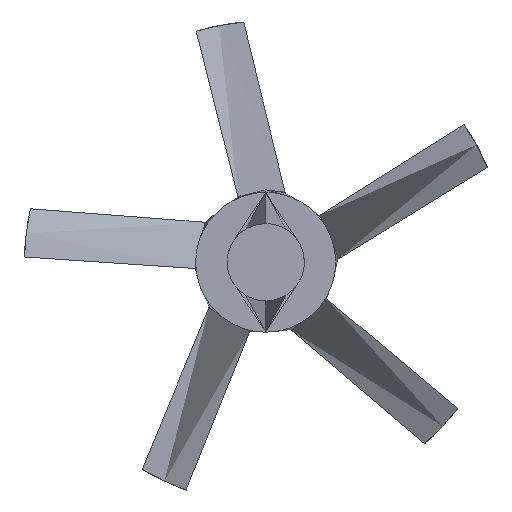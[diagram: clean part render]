
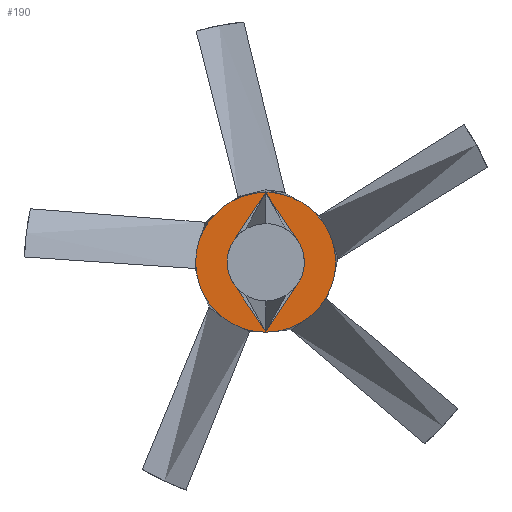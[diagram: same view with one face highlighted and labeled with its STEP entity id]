
A CAD part, left-side view. The second image highlights one B-rep face of the part: STEP entity #190.
In plain terms, the highlighted planar face has unit normal (-1, 0, 0).
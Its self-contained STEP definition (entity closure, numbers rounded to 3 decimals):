
#190=ADVANCED_FACE($,(#231,#206),#583,.T.);
#206=FACE_BOUND($,#270,.T.);
#231=FACE_OUTER_BOUND($,#269,.T.);
#269=EDGE_LOOP($,(#383,#384));
#270=EDGE_LOOP($,(#385,#386,#387));
#383=ORIENTED_EDGE($,*,*,#453,.T.);
#384=ORIENTED_EDGE($,*,*,#454,.T.);
#385=ORIENTED_EDGE($,*,*,#519,.F.);
#386=ORIENTED_EDGE($,*,*,#501,.F.);
#387=ORIENTED_EDGE($,*,*,#500,.F.);
#453=EDGE_CURVE($,#534,#529,#665,.T.);
#454=EDGE_CURVE($,#529,#534,#666,.T.);
#500=EDGE_CURVE($,#566,#565,#684,.T.);
#501=EDGE_CURVE($,#565,#576,#685,.T.);
#519=EDGE_CURVE($,#576,#566,#696,.T.);
#529=VERTEX_POINT($,#11056);
#534=VERTEX_POINT($,#11061);
#565=VERTEX_POINT($,#11092);
#566=VERTEX_POINT($,#11093);
#576=VERTEX_POINT($,#11103);
#583=PLANE($,#733);
#665=(
BOUNDED_CURVE()
B_SPLINE_CURVE(2,(#919,#920,#921,#922,#923),.UNSPECIFIED.,.F.,.F.)
B_SPLINE_CURVE_WITH_KNOTS((3,2,3),(0.,1.571,3.142),.UNSPECIFIED.)
CURVE()
GEOMETRIC_REPRESENTATION_ITEM()
RATIONAL_B_SPLINE_CURVE((1.,0.707,1.,0.707,1.))
REPRESENTATION_ITEM($)
);
#666=(
BOUNDED_CURVE()
B_SPLINE_CURVE(2,(#924,#925,#926,#927,#928),.UNSPECIFIED.,.F.,.F.)
B_SPLINE_CURVE_WITH_KNOTS((3,2,3),(3.142,4.712,6.283),
.UNSPECIFIED.)
CURVE()
GEOMETRIC_REPRESENTATION_ITEM()
RATIONAL_B_SPLINE_CURVE((1.,0.707,1.,0.707,1.))
REPRESENTATION_ITEM($)
);
#684=(
BOUNDED_CURVE()
B_SPLINE_CURVE(2,(#2502,#2503,#2504,#2505,#2506),.UNSPECIFIED.,.F.,.F.)
B_SPLINE_CURVE_WITH_KNOTS((3,2,3),(-69.111,-51.833,-34.556),
.UNSPECIFIED.)
CURVE()
GEOMETRIC_REPRESENTATION_ITEM()
RATIONAL_B_SPLINE_CURVE((1.,0.707,1.,0.707,1.))
REPRESENTATION_ITEM($)
);
#685=(
BOUNDED_CURVE()
B_SPLINE_CURVE(2,(#2507,#2508,#2509,#2510,#2511,#2512,#2513),.UNSPECIFIED.,
.F.,.F.)
B_SPLINE_CURVE_WITH_KNOTS((3,2,2,3),(-34.556,-34.555,
-17.278,-0.001),.UNSPECIFIED.)
CURVE()
GEOMETRIC_REPRESENTATION_ITEM()
RATIONAL_B_SPLINE_CURVE((1.,1.,1.,0.707,1.,0.707,
1.))
REPRESENTATION_ITEM($)
);
#696=(
BOUNDED_CURVE()
B_SPLINE_CURVE(2,(#2630,#2631,#2632),.UNSPECIFIED.,.F.,.F.)
B_SPLINE_CURVE_WITH_KNOTS((3,3),(-0.001,0.),.UNSPECIFIED.)
CURVE()
GEOMETRIC_REPRESENTATION_ITEM()
RATIONAL_B_SPLINE_CURVE((1.,1.,1.))
REPRESENTATION_ITEM($)
);
#733=AXIS2_PLACEMENT_3D($,#10928,#740,$);
#740=DIRECTION($,(-1.,0.,0.));
#919=CARTESIAN_POINT($,(-25.,0.,36.23));
#920=CARTESIAN_POINT($,(-25.,36.23,36.23));
#921=CARTESIAN_POINT($,(-25.,36.23,0.));
#922=CARTESIAN_POINT($,(-25.,36.23,-36.23));
#923=CARTESIAN_POINT($,(-25.,0.,-36.23));
#924=CARTESIAN_POINT($,(-25.,0.,-36.23));
#925=CARTESIAN_POINT($,(-25.,-36.23,-36.23));
#926=CARTESIAN_POINT($,(-25.,-36.23,0.));
#927=CARTESIAN_POINT($,(-25.,-36.23,36.23));
#928=CARTESIAN_POINT($,(-25.,0.,36.23));
#2502=CARTESIAN_POINT($,(-25.,-11.,0.001));
#2503=CARTESIAN_POINT($,(-25.,-10.999,11.001));
#2504=CARTESIAN_POINT($,(-25.,0.001,11.));
#2505=CARTESIAN_POINT($,(-25.,11.,10.999));
#2506=CARTESIAN_POINT($,(-25.,11.,0.));
#2507=CARTESIAN_POINT($,(-25.,11.,0.));
#2508=CARTESIAN_POINT($,(-25.,11.,0.));
#2509=CARTESIAN_POINT($,(-25.,11.,-0.001));
#2510=CARTESIAN_POINT($,(-25.,10.999,-11.001));
#2511=CARTESIAN_POINT($,(-25.,-0.001,-11.));
#2512=CARTESIAN_POINT($,(-25.,-11.,-10.999));
#2513=CARTESIAN_POINT($,(-25.,-11.,0.));
#2630=CARTESIAN_POINT($,(-25.,-11.,0.));
#2631=CARTESIAN_POINT($,(-25.,-11.,0.));
#2632=CARTESIAN_POINT($,(-25.,-11.,0.001));
#10928=CARTESIAN_POINT($,(-25.,-36.23,36.23));
#11056=CARTESIAN_POINT($,(-25.,0.,-36.23));
#11061=CARTESIAN_POINT($,(-25.,0.,36.23));
#11092=CARTESIAN_POINT($,(-25.,11.,0.));
#11093=CARTESIAN_POINT($,(-25.,-11.,0.001));
#11103=CARTESIAN_POINT($,(-25.,-11.,0.));
